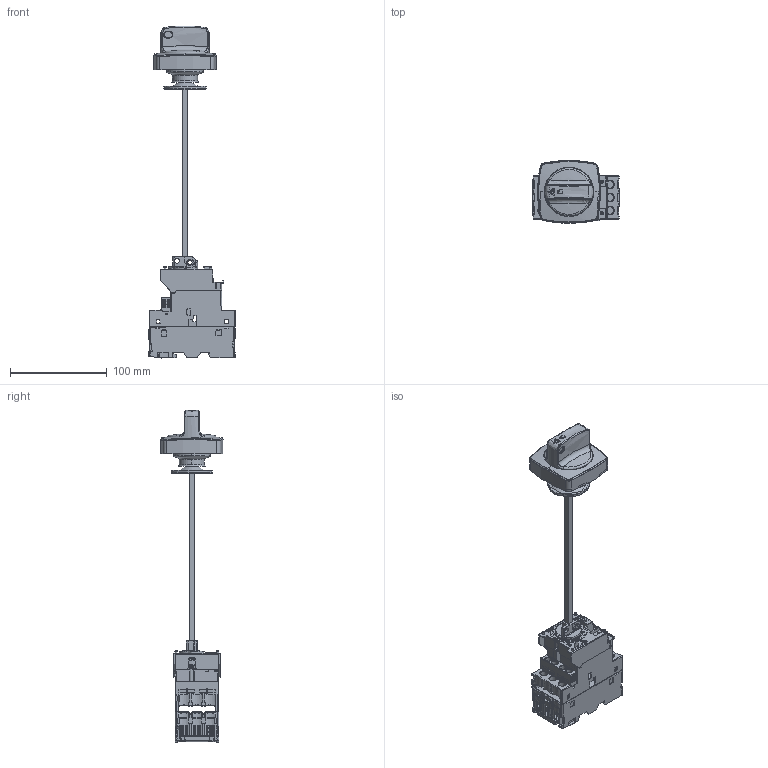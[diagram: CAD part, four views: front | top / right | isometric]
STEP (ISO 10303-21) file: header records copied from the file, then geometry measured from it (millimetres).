
FILE_DESCRIPTION(/* description */ (''),/* implementation_level */ '2;1');
FILE_NAME(/* name */ '柜外操作+PM.stp',/* time_stamp */ '2020-04-17T09:10:45+08:00',/* author */ (''),/* organization */ (''),/* preprocessor_version */ 'ST-DEVELOPER v16',/* originating_system */ 'SIEMENS PLM Software NX 10.0',/* authorisation */ '');
FILE_SCHEMA (('CONFIG_CONTROL_DESIGN'));
Length unit declared in the file: millimetre
Products named in the file (1): 2020-产品_stp
Bounding box: 90.08 x 64.71 x 343.89 mm (x, y, z)
Volume: 199895.7 mm3; surface area: 138374.5 mm2
Topology: 13 solids, 35 shells, 4189 faces, 11820 edges, 7726 vertices
Faces by surface type: plane 2921, cylinder 818, bspline 151, torus 136, cone 79, sphere 61, extrusion 23
Full cylindrical faces by diameter (mm): 1.45 x1, 1.8 x1, 1.98 x1, 2.15 x1, 2.35 x2, 2.52 x4, 3 x4, 3.15 x4, 3.4 x2, 4 x1, 5 x3, 5.5 x3, 6 x1, 6.4 x4, 7.5 x6, 7.65 x1, 7.75 x1, 30.65 x1
Entity records: 150366 total; most frequent: CARTESIAN_POINT 42589, ORIENTED_EDGE 23354, DIRECTION 20988, EDGE_CURVE 11677, VECTOR 8592, LINE 8569, VERTEX_POINT 7702, AXIS2_PLACEMENT_3D 6198
